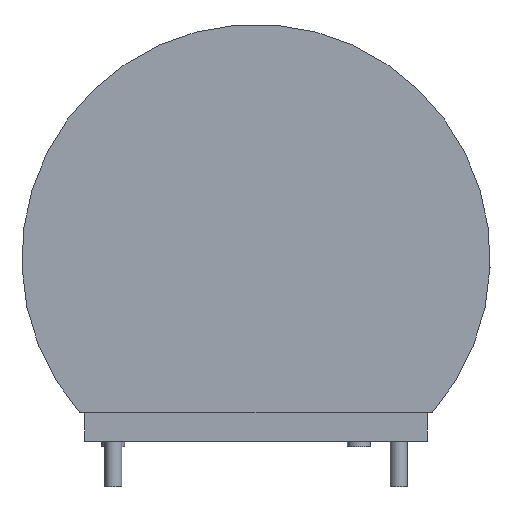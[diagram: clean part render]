
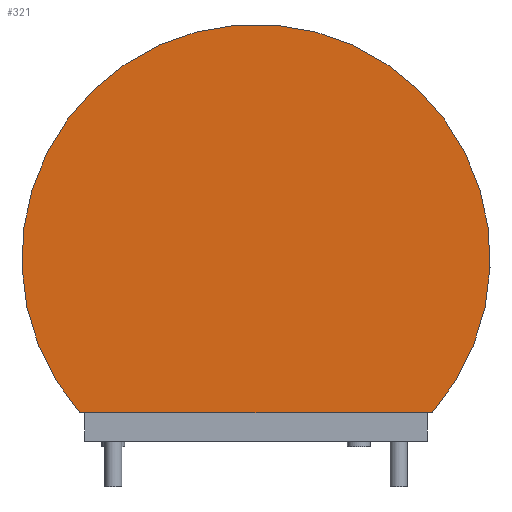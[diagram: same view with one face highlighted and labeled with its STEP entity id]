
A CAD part, front view. The second image highlights one B-rep face of the part: STEP entity #321.
In plain terms, the highlighted planar face has unit normal (0, -1, 0).
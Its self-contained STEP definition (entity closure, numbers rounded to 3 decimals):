
#25=LINE('',#537,#44);
#44=VECTOR('',#444,30.854);
#63=PLANE('',#361);
#101=FACE_OUTER_BOUND('',#133,.T.);
#133=EDGE_LOOP('',(#264,#265));
#161=CIRCLE('',#362,20.5);
#184=VERTEX_POINT('',#531);
#186=VERTEX_POINT('',#535);
#215=EDGE_CURVE('',#184,#186,#25,.T.);
#219=EDGE_CURVE('',#186,#184,#161,.T.);
#264=ORIENTED_EDGE('',*,*,#219,.T.);
#265=ORIENTED_EDGE('',*,*,#215,.T.);
#321=ADVANCED_FACE('',(#101),#63,.F.);
#361=AXIS2_PLACEMENT_3D('',#543,#448,#449);
#362=AXIS2_PLACEMENT_3D('',#544,#450,#451);
#444=DIRECTION('',(1.,0.,0.));
#448=DIRECTION('center_axis',(0.,1.,0.));
#449=DIRECTION('ref_axis',(0.,0.,1.));
#450=DIRECTION('center_axis',(0.,-1.,0.));
#451=DIRECTION('ref_axis',(0.753,0.,0.659));
#531=CARTESIAN_POINT('',(-15.427,-10.5,2.5));
#535=CARTESIAN_POINT('',(15.427,-10.5,2.5));
#537=CARTESIAN_POINT('',(-15.427,-10.5,2.5));
#543=CARTESIAN_POINT('Origin',(0.,-10.5,16.571));
#544=CARTESIAN_POINT('Origin',(0.,-10.5,16.));
